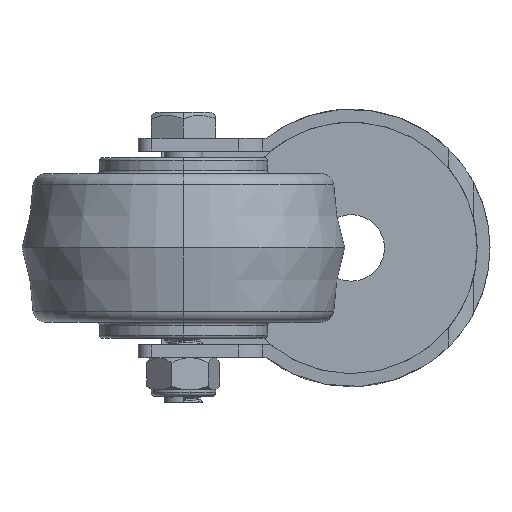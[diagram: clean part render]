
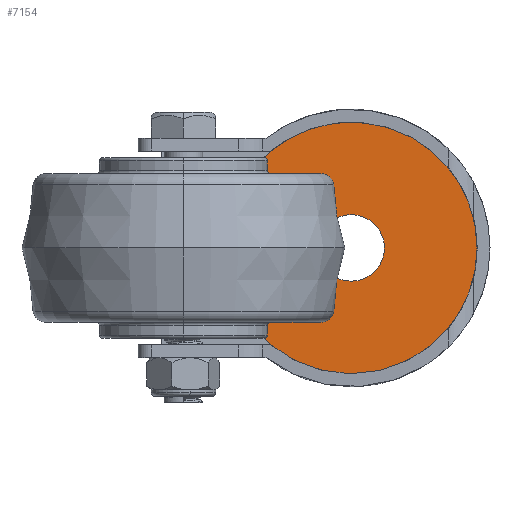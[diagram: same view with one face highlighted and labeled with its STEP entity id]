
A CAD part, front view. The second image highlights one B-rep face of the part: STEP entity #7154.
In plain terms, the highlighted planar face has unit normal (0, -1, 0) as drawn and (0, 1, 0) by its records, which use the part's own axes.
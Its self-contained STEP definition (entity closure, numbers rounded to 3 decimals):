
#215 = CARTESIAN_POINT ( 'NONE',  ( 0., 2., 19.5 ) ) ;
#1506 = DIRECTION ( 'NONE',  ( 0., 1., 0. ) ) ;
#2846 = EDGE_CURVE ( 'NONE', #13559, #4923, #15424, .T. ) ;
#2896 = FACE_BOUND ( 'NONE', #10002, .T. ) ;
#3107 = PLANE ( 'NONE',  #16565 ) ;
#3248 = VERTEX_POINT ( 'NONE', #7810 ) ;
#4923 = VERTEX_POINT ( 'NONE', #215 ) ;
#5014 = EDGE_LOOP ( 'NONE', ( #15968, #14668 ) ) ;
#7154 = ADVANCED_FACE ( 'NONE', ( #2896, #11061 ), #3107, .T. ) ;
#7504 = CIRCLE ( 'NONE', #20752, 5.15 ) ;
#7585 = EDGE_CURVE ( 'NONE', #4923, #13559, #11150, .T. ) ;
#7718 = DIRECTION ( 'NONE',  ( 0., 0., 1. ) ) ;
#7810 = CARTESIAN_POINT ( 'NONE',  ( 0., 2., 5.15 ) ) ;
#7981 = DIRECTION ( 'NONE',  ( 0., 0., 1. ) ) ;
#8322 = AXIS2_PLACEMENT_3D ( 'NONE', #8693, #8492, #15065 ) ;
#8492 = DIRECTION ( 'NONE',  ( 0., 1., 0. ) ) ;
#8693 = CARTESIAN_POINT ( 'NONE',  ( 0., 2., 0. ) ) ;
#9361 = DIRECTION ( 'NONE',  ( 0., 0., 1. ) ) ;
#9673 = CARTESIAN_POINT ( 'NONE',  ( 0., 2., -5.15 ) ) ;
#10002 = EDGE_LOOP ( 'NONE', ( #15056, #13595 ) ) ;
#11061 = FACE_OUTER_BOUND ( 'NONE', #5014, .T. ) ;
#11150 = CIRCLE ( 'NONE', #13849, 19.5 ) ;
#13559 = VERTEX_POINT ( 'NONE', #18507 ) ;
#13595 = ORIENTED_EDGE ( 'NONE', *, *, #14637, .F. ) ;
#13635 = CARTESIAN_POINT ( 'NONE',  ( 0., 2., 0. ) ) ;
#13849 = AXIS2_PLACEMENT_3D ( 'NONE', #13635, #15550, #15658 ) ;
#14619 = DIRECTION ( 'NONE',  ( 0., 1., 0. ) ) ;
#14637 = EDGE_CURVE ( 'NONE', #3248, #19067, #7504, .T. ) ;
#14668 = ORIENTED_EDGE ( 'NONE', *, *, #7585, .T. ) ;
#15056 = ORIENTED_EDGE ( 'NONE', *, *, #16594, .F. ) ;
#15065 = DIRECTION ( 'NONE',  ( 0., 0., 1. ) ) ;
#15424 = CIRCLE ( 'NONE', #8322, 19.5 ) ;
#15534 = AXIS2_PLACEMENT_3D ( 'NONE', #20851, #19244, #7981 ) ;
#15550 = DIRECTION ( 'NONE',  ( 0., 1., 0. ) ) ;
#15658 = DIRECTION ( 'NONE',  ( 0., 0., 1. ) ) ;
#15784 = CARTESIAN_POINT ( 'NONE',  ( 0., 2., 0. ) ) ;
#15968 = ORIENTED_EDGE ( 'NONE', *, *, #2846, .T. ) ;
#16203 = CIRCLE ( 'NONE', #15534, 5.15 ) ;
#16565 = AXIS2_PLACEMENT_3D ( 'NONE', #17528, #1506, #9361 ) ;
#16594 = EDGE_CURVE ( 'NONE', #19067, #3248, #16203, .T. ) ;
#17528 = CARTESIAN_POINT ( 'NONE',  ( 0., 2., 0. ) ) ;
#18507 = CARTESIAN_POINT ( 'NONE',  ( 0., 2., -19.5 ) ) ;
#19067 = VERTEX_POINT ( 'NONE', #9673 ) ;
#19244 = DIRECTION ( 'NONE',  ( 0., 1., 0. ) ) ;
#20752 = AXIS2_PLACEMENT_3D ( 'NONE', #15784, #14619, #7718 ) ;
#20851 = CARTESIAN_POINT ( 'NONE',  ( 0., 2., 0. ) ) ;
